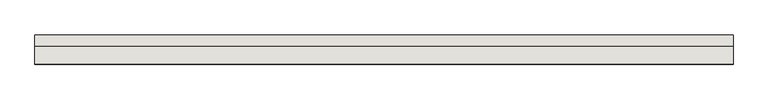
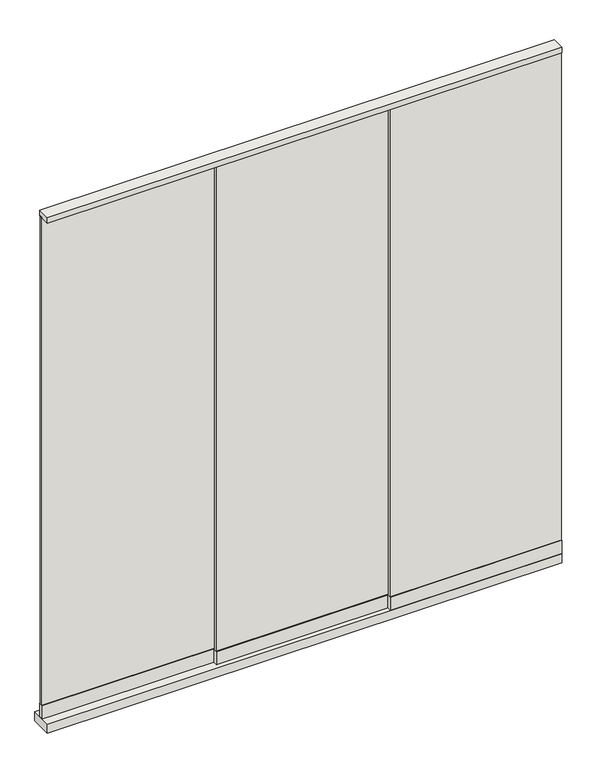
"""IFC4 building model written with IfcOpenShell, lengths in millimetres: wall geometry, Renson_Algarve_Glass_Sliding_Panel : Renson_Algarve_Glass_Sliding_Panel."""

from ifc_helpers import new_model, si_unit, frame, origin, origin_with_axes, place, context, project, spatial, polyline, outline, extrude, source, transform, mapped, element, save


def wall_7f3c542c(model_context):
    return source(origin(), model_context, "Body", "SweptSolid", [
        extrude(outline(polyline([(750.0, 0.0), (-1140.0, 0.0), (-1140.0, 80.0), (750.0, 80.0), (750.0, 0.0)])), origin_with_axes(), (0.0, 0.0, 1.0), 35.0),
        extrude(outline(polyline([(750.0, 3.0), (120.0, 3.0), (120.0, 13.0), (750.0, 13.0), (750.0, 3.0)])), frame((0.0, 0.0, 86.0), z_axis=(0.0, 0.0, 1.0), x_axis=(1.0, 0.0, 0.0)), (0.0, 0.0, 1.0), 1894.0),
        extrude(outline(polyline([(155.0, 19.0), (-510.0, 19.0), (-510.0, 29.0), (155.0, 29.0), (155.0, 19.0)])), frame((0.0, 0.0, 86.0), z_axis=(0.0, 0.0, 1.0), x_axis=(1.0, 0.0, 0.0)), (0.0, 0.0, 1.0), 1894.0),
        extrude(outline(polyline([(-475.0, 35.0), (-1140.0, 35.0), (-1140.0, 45.0), (-475.0, 45.0), (-475.0, 35.0)])), frame((0.0, 0.0, 86.0), z_axis=(0.0, 0.0, 1.0), x_axis=(1.0, 0.0, 0.0)), (0.0, 0.0, 1.0), 1894.0),
        extrude(outline(polyline([(750.0, 0.0), (-1140.0, 0.0), (-1140.0, 48.0), (750.0, 48.0), (750.0, 0.0)])), frame((0.0, 0.0, 1980.0), z_axis=(0.0, 0.0, 1.0), x_axis=(1.0, 0.0, 0.0)), (0.0, 0.0, 1.0), 20.0),
        extrude(outline(polyline([(750.0, 0.0), (120.0, 0.0), (120.0, 16.0), (750.0, 16.0), (750.0, 0.0)])), frame((0.0, 0.0, 35.0), z_axis=(0.0, 0.0, 1.0), x_axis=(1.0, 0.0, 0.0)), (0.0, 0.0, 1.0), 51.0),
        extrude(outline(polyline([(155.0, 16.0), (-510.0, 16.0), (-510.0, 32.0), (155.0, 32.0), (155.0, 16.0)])), frame((0.0, 0.0, 35.0), z_axis=(0.0, 0.0, 1.0), x_axis=(1.0, 0.0, 0.0)), (0.0, 0.0, 1.0), 51.0),
        extrude(outline(polyline([(-475.0, 32.0), (-1140.0, 32.0), (-1140.0, 48.0), (-475.0, 48.0), (-475.0, 32.0)])), frame((0.0, 0.0, 35.0), z_axis=(0.0, 0.0, 1.0), x_axis=(1.0, 0.0, 0.0)), (0.0, 0.0, 1.0), 51.0),
    ])


if __name__ == "__main__":
    model = new_model("IFC4")
    model_context = context("Model", 3, world=origin())
    ifc_project = project(units=[si_unit("LENGTHUNIT", "METRE", prefix="MILLI")], contexts=[model_context])
    site = spatial("IfcSite", under=ifc_project)
    building = spatial("IfcBuilding", under=site)
    placement = place(None, origin())
    wall_shape = wall_7f3c542c(model_context)
    element("IfcWall", 1, ObjectType="Renson_Algarve_Glass_Sliding_Panel : Renson_Algarve_Glass_Sliding_Panel", at=placement, inside=building, context=model_context, shape_type="MappedRepresentation", body=[
        mapped(wall_shape, transform((0.0, 0.0, 0.0), x_axis=(1.0, 0.0, 0.0), y_axis=(0.0, 1.0, 0.0), z_axis=(0.0, 0.0, 1.0))),
    ])
    save(model, "model.ifc")
